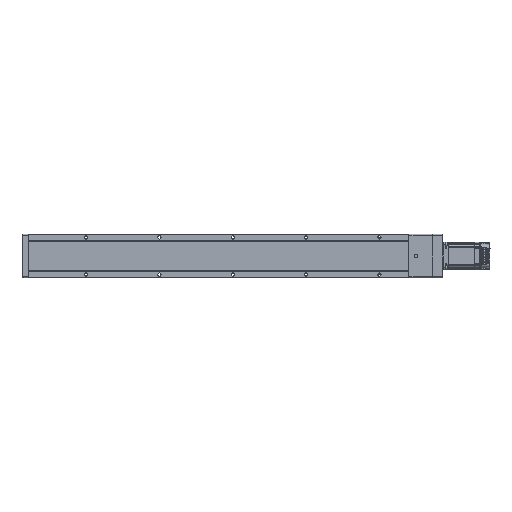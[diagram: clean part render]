
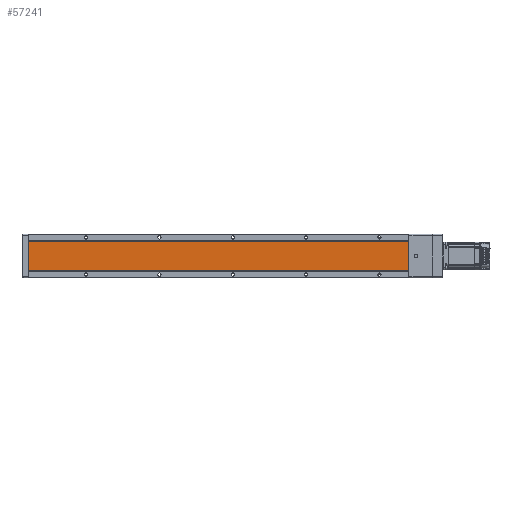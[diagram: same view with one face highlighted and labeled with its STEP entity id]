
A CAD part, front view. The second image highlights one B-rep face of the part: STEP entity #57241.
In plain terms, the highlighted planar face has unit normal (0, -1, 0).
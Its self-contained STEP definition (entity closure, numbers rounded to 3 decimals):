
#1351 = LINE ( 'NONE', #23445, #33624 ) ;
#1568 = VECTOR ( 'NONE', #13146, 1000. ) ;
#4869 = DIRECTION ( 'NONE',  ( 0., 0., 1. ) ) ;
#5154 = PLANE ( 'NONE',  #35183 ) ;
#5833 = EDGE_CURVE ( 'NONE', #49893, #21586, #33948, .T. ) ;
#7508 = ORIENTED_EDGE ( 'NONE', *, *, #5833, .T. ) ;
#10575 = EDGE_CURVE ( 'NONE', #49893, #43260, #14003, .T. ) ;
#12906 = VECTOR ( 'NONE', #43871, 1000. ) ;
#13040 = DIRECTION ( 'NONE',  ( 0., 0., -1. ) ) ;
#13146 = DIRECTION ( 'NONE',  ( 1., 0., 0. ) ) ;
#13586 = CARTESIAN_POINT ( 'NONE',  ( -29.843, 1., 1378. ) ) ;
#14003 = LINE ( 'NONE', #22780, #1568 ) ;
#14183 = ORIENTED_EDGE ( 'NONE', *, *, #21973, .F. ) ;
#16526 = EDGE_CURVE ( 'NONE', #21586, #24732, #53184, .T. ) ;
#16821 = CARTESIAN_POINT ( 'NONE',  ( 29.843, 1., 0. ) ) ;
#20753 = EDGE_LOOP ( 'NONE', ( #28095, #7508, #28951, #14183 ) ) ;
#21586 = VERTEX_POINT ( 'NONE', #24460 ) ;
#21973 = EDGE_CURVE ( 'NONE', #43260, #24732, #1351, .T. ) ;
#22780 = CARTESIAN_POINT ( 'NONE',  ( -29.843, 1., 778. ) ) ;
#23193 = FACE_OUTER_BOUND ( 'NONE', #20753, .T. ) ;
#23445 = CARTESIAN_POINT ( 'NONE',  ( 29.843, 1., 1378. ) ) ;
#24347 = DIRECTION ( 'NONE',  ( 0., 0., -1. ) ) ;
#24460 = CARTESIAN_POINT ( 'NONE',  ( -29.843, 1., 0. ) ) ;
#24732 = VERTEX_POINT ( 'NONE', #16821 ) ;
#28095 = ORIENTED_EDGE ( 'NONE', *, *, #10575, .F. ) ;
#28951 = ORIENTED_EDGE ( 'NONE', *, *, #16526, .T. ) ;
#31172 = CARTESIAN_POINT ( 'NONE',  ( -29.843, 1., 778. ) ) ;
#33624 = VECTOR ( 'NONE', #13040, 1000. ) ;
#33644 = CARTESIAN_POINT ( 'NONE',  ( -29.843, 1., 1378. ) ) ;
#33948 = LINE ( 'NONE', #33644, #40536 ) ;
#34911 = CARTESIAN_POINT ( 'NONE',  ( -29.843, 1., 0. ) ) ;
#35183 = AXIS2_PLACEMENT_3D ( 'NONE', #13586, #45261, #4869 ) ;
#40536 = VECTOR ( 'NONE', #24347, 1000. ) ;
#40553 = CARTESIAN_POINT ( 'NONE',  ( 29.843, 1., 778. ) ) ;
#43260 = VERTEX_POINT ( 'NONE', #40553 ) ;
#43871 = DIRECTION ( 'NONE',  ( 1., 0., 0. ) ) ;
#45261 = DIRECTION ( 'NONE',  ( 0., 1., 0. ) ) ;
#49893 = VERTEX_POINT ( 'NONE', #31172 ) ;
#53184 = LINE ( 'NONE', #34911, #12906 ) ;
#57241 = ADVANCED_FACE ( 'NONE', ( #23193 ), #5154, .F. ) ;
